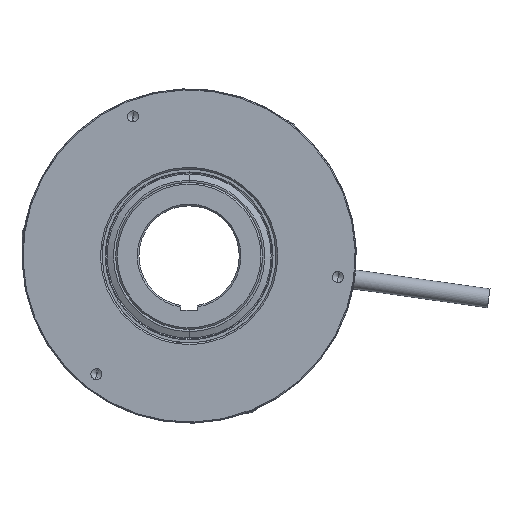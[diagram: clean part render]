
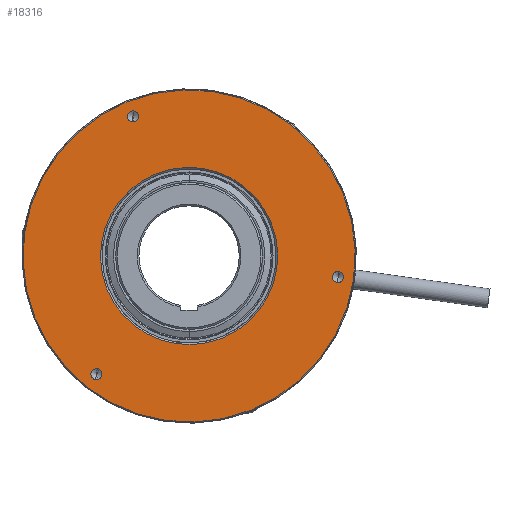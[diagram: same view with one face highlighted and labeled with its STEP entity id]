
A CAD part, left-side view. The second image highlights one B-rep face of the part: STEP entity #18316.
In plain terms, the highlighted planar face has unit normal (-1, 0, 0).
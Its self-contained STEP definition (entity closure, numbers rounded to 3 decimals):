
#1570 = DIRECTION ( 'NONE',  ( -1., 0., 0. ) ) ;
#2007 = AXIS2_PLACEMENT_3D ( 'NONE', #78796, #24469, #87673 ) ;
#3214 = CIRCLE ( 'NONE', #12257, 1.65 ) ;
#4184 = DIRECTION ( 'NONE',  ( 0., -0.99, -0.14 ) ) ;
#5826 = CARTESIAN_POINT ( 'NONE',  ( -7.676, 35.262, 56.285 ) ) ;
#6848 = CARTESIAN_POINT ( 'NONE',  ( -7.676, -9.06, 48.33 ) ) ;
#7922 = AXIS2_PLACEMENT_3D ( 'NONE', #54529, #116513, #63619 ) ;
#9642 = EDGE_LOOP ( 'NONE', ( #22663, #24883 ) ) ;
#9832 = VERTEX_POINT ( 'NONE', #100565 ) ;
#12257 = AXIS2_PLACEMENT_3D ( 'NONE', #75512, #21122, #84477 ) ;
#12426 = VERTEX_POINT ( 'NONE', #95035 ) ;
#14429 = ORIENTED_EDGE ( 'NONE', *, *, #106154, .T. ) ;
#15009 = ORIENTED_EDGE ( 'NONE', *, *, #77394, .T. ) ;
#15085 = DIRECTION ( 'NONE',  ( 0., -0.99, -0.14 ) ) ;
#16730 = ORIENTED_EDGE ( 'NONE', *, *, #78472, .T. ) ;
#17499 = DIRECTION ( 'NONE',  ( -1., 0., 0. ) ) ;
#18316 = ADVANCED_FACE ( 'NONE', ( #67393, #43172, #114274, #24757, #91031 ), #85357, .T. ) ;
#19352 = ORIENTED_EDGE ( 'NONE', *, *, #106177, .T. ) ;
#19623 = VERTEX_POINT ( 'NONE', #20712 ) ;
#20434 = ORIENTED_EDGE ( 'NONE', *, *, #106332, .F. ) ;
#20712 = CARTESIAN_POINT ( 'NONE',  ( -7.676, 61.5, 60.007 ) ) ;
#20914 = AXIS2_PLACEMENT_3D ( 'NONE', #56230, #1570, #65301 ) ;
#21031 = EDGE_LOOP ( 'NONE', ( #16730, #19352 ) ) ;
#21122 = DIRECTION ( 'NONE',  ( -1., 0., 0. ) ) ;
#21854 = CARTESIAN_POINT ( 'NONE',  ( -7.676, 63.204, 19.278 ) ) ;
#22324 = ORIENTED_EDGE ( 'NONE', *, *, #85961, .F. ) ;
#22663 = ORIENTED_EDGE ( 'NONE', *, *, #106833, .F. ) ;
#24469 = DIRECTION ( 'NONE',  ( -1., 0., 0. ) ) ;
#24757 = FACE_BOUND ( 'NONE', #9642, .T. ) ;
#24883 = ORIENTED_EDGE ( 'NONE', *, *, #87415, .F. ) ;
#25508 = CIRCLE ( 'NONE', #2007, 1.65 ) ;
#27211 = ORIENTED_EDGE ( 'NONE', *, *, #106854, .F. ) ;
#28558 = ORIENTED_EDGE ( 'NONE', *, *, #88427, .F. ) ;
#29145 = CIRCLE ( 'NONE', #20914, 1.65 ) ;
#29934 = CIRCLE ( 'NONE', #63987, 26.5 ) ;
#31652 = DIRECTION ( 'NONE',  ( -1., 0., 0. ) ) ;
#32304 = AXIS2_PLACEMENT_3D ( 'NONE', #85863, #31652, #94587 ) ;
#35183 = VERTEX_POINT ( 'NONE', #38798 ) ;
#36250 = DIRECTION ( 'NONE',  ( -1., 0., 0. ) ) ;
#38798 = CARTESIAN_POINT ( 'NONE',  ( -7.676, 9.025, 52.562 ) ) ;
#41424 = AXIS2_PLACEMENT_3D ( 'NONE', #90260, #36250, #98999 ) ;
#43172 = FACE_BOUND ( 'NONE', #21031, .T. ) ;
#46503 = VERTEX_POINT ( 'NONE', #63483 ) ;
#47542 = AXIS2_PLACEMENT_3D ( 'NONE', #54666, #116653, #63763 ) ;
#48394 = VERTEX_POINT ( 'NONE', #6848 ) ;
#50273 = DIRECTION ( 'NONE',  ( -1., 0., 0. ) ) ;
#51305 = VERTEX_POINT ( 'NONE', #102581 ) ;
#53334 = CIRCLE ( 'NONE', #32304, 1.65 ) ;
#54529 = CARTESIAN_POINT ( 'NONE',  ( -7.676, -9.292, 49.964 ) ) ;
#54666 = CARTESIAN_POINT ( 'NONE',  ( -7.676, 35.262, 56.285 ) ) ;
#56230 = CARTESIAN_POINT ( 'NONE',  ( -7.676, 62.973, 20.912 ) ) ;
#56496 = CIRCLE ( 'NONE', #41424, 49.7 ) ;
#58837 = DIRECTION ( 'NONE',  ( -1., 0., 0. ) ) ;
#61774 = CARTESIAN_POINT ( 'NONE',  ( -7.676, 52.297, 96.396 ) ) ;
#63483 = CARTESIAN_POINT ( 'NONE',  ( -7.676, -13.945, 49.304 ) ) ;
#63619 = DIRECTION ( 'NONE',  ( 0., -0.14, 0.99 ) ) ;
#63763 = DIRECTION ( 'NONE',  ( 0., -0.99, -0.14 ) ) ;
#63987 = AXIS2_PLACEMENT_3D ( 'NONE', #5826, #69521, #15085 ) ;
#65301 = DIRECTION ( 'NONE',  ( 0., -0.14, 0.99 ) ) ;
#67393 = FACE_OUTER_BOUND ( 'NONE', #82349, .T. ) ;
#69521 = DIRECTION ( 'NONE',  ( 1., 0., 0. ) ) ;
#70029 = AXIS2_PLACEMENT_3D ( 'NONE', #111830, #58837, #4184 ) ;
#70204 = CIRCLE ( 'NONE', #7922, 1.65 ) ;
#71896 = CARTESIAN_POINT ( 'NONE',  ( -7.676, 52.065, 98.03 ) ) ;
#75512 = CARTESIAN_POINT ( 'NONE',  ( -7.676, 62.973, 20.912 ) ) ;
#77394 = EDGE_CURVE ( 'NONE', #46503, #12426, #93178, .T. ) ;
#78057 = VERTEX_POINT ( 'NONE', #61774 ) ;
#78472 = EDGE_CURVE ( 'NONE', #35183, #19623, #29934, .T. ) ;
#78796 = CARTESIAN_POINT ( 'NONE',  ( -7.676, 52.065, 98.03 ) ) ;
#80988 = DIRECTION ( 'NONE',  ( 0., -0.14, 0.99 ) ) ;
#82349 = EDGE_LOOP ( 'NONE', ( #14429, #15009 ) ) ;
#83243 = AXIS2_PLACEMENT_3D ( 'NONE', #71896, #17499, #80988 ) ;
#84477 = DIRECTION ( 'NONE',  ( 0., -0.14, 0.99 ) ) ;
#85357 = PLANE ( 'NONE',  #90247 ) ;
#85863 = CARTESIAN_POINT ( 'NONE',  ( -7.676, -9.292, 49.964 ) ) ;
#85961 = EDGE_CURVE ( 'NONE', #102697, #9832, #3214, .T. ) ;
#87415 = EDGE_CURVE ( 'NONE', #78057, #104133, #25508, .T. ) ;
#87673 = DIRECTION ( 'NONE',  ( 0., -0.14, 0.99 ) ) ;
#88427 = EDGE_CURVE ( 'NONE', #48394, #51305, #53334, .T. ) ;
#90247 = AXIS2_PLACEMENT_3D ( 'NONE', #103620, #50273, #112425 ) ;
#90260 = CARTESIAN_POINT ( 'NONE',  ( -7.676, 35.262, 56.285 ) ) ;
#91031 = FACE_BOUND ( 'NONE', #99683, .T. ) ;
#93178 = CIRCLE ( 'NONE', #70029, 49.7 ) ;
#94587 = DIRECTION ( 'NONE',  ( 0., -0.14, 0.99 ) ) ;
#95035 = CARTESIAN_POINT ( 'NONE',  ( -7.676, 84.47, 63.265 ) ) ;
#98999 = DIRECTION ( 'NONE',  ( 0., -0.99, -0.14 ) ) ;
#99683 = EDGE_LOOP ( 'NONE', ( #27211, #28558 ) ) ;
#100565 = CARTESIAN_POINT ( 'NONE',  ( -7.676, 62.741, 22.545 ) ) ;
#102581 = CARTESIAN_POINT ( 'NONE',  ( -7.676, -9.523, 51.598 ) ) ;
#102697 = VERTEX_POINT ( 'NONE', #21854 ) ;
#103620 = CARTESIAN_POINT ( 'NONE',  ( -7.676, 61.005, 59.937 ) ) ;
#103739 = CIRCLE ( 'NONE', #47542, 26.5 ) ;
#104133 = VERTEX_POINT ( 'NONE', #104762 ) ;
#104727 = CIRCLE ( 'NONE', #83243, 1.65 ) ;
#104762 = CARTESIAN_POINT ( 'NONE',  ( -7.676, 51.834, 99.663 ) ) ;
#106154 = EDGE_CURVE ( 'NONE', #12426, #46503, #56496, .T. ) ;
#106177 = EDGE_CURVE ( 'NONE', #19623, #35183, #103739, .T. ) ;
#106332 = EDGE_CURVE ( 'NONE', #9832, #102697, #29145, .T. ) ;
#106833 = EDGE_CURVE ( 'NONE', #104133, #78057, #104727, .T. ) ;
#106854 = EDGE_CURVE ( 'NONE', #51305, #48394, #70204, .T. ) ;
#110983 = EDGE_LOOP ( 'NONE', ( #20434, #22324 ) ) ;
#111830 = CARTESIAN_POINT ( 'NONE',  ( -7.676, 35.262, 56.285 ) ) ;
#112425 = DIRECTION ( 'NONE',  ( 0., -0.99, -0.14 ) ) ;
#114274 = FACE_BOUND ( 'NONE', #110983, .T. ) ;
#116513 = DIRECTION ( 'NONE',  ( -1., 0., 0. ) ) ;
#116653 = DIRECTION ( 'NONE',  ( 1., 0., 0. ) ) ;
